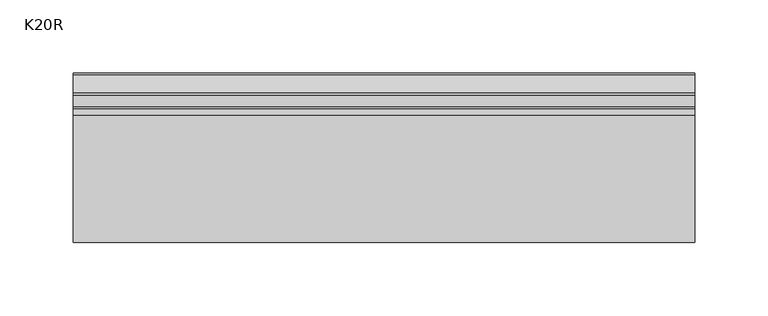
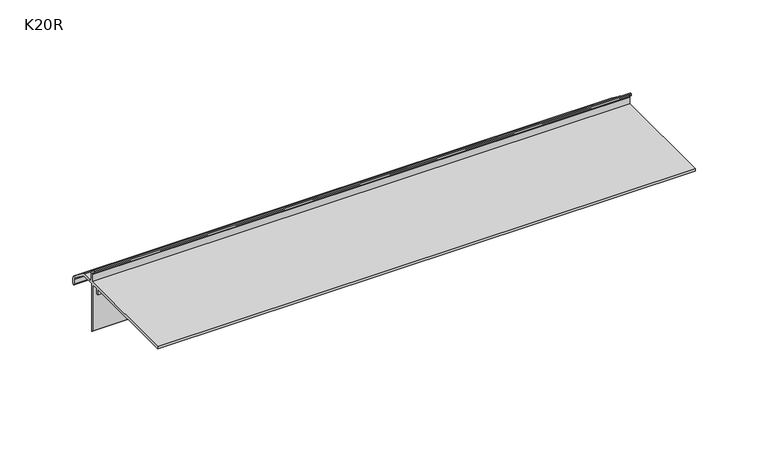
"""IFC4 building model written with IfcOpenShell, lengths in millimetres: proxy geometry, K20R Profil okapowy prosty z rynną : K20R."""

from ifc_helpers import new_model, si_unit, frame, origin, place, context, project, spatial, polyline, circle_curve, source, transform, mapped, element, save
from ifc_brep_helpers import plane_surface, cylinder_surface, revolved_surface, advanced_brep


def k20r_9e352cdf(model_context):
    return source(origin(), model_context, "Body", "AdvancedBrep", [
        advanced_brep(
        [(0.0, 4.0000007, -8.2869169), (0.0, 5.930201, -10.2872957), (0.0, 13.7033457, -10.5587402), (0.0, 15.4054451, -11.1610531), (0.0, 27.605445, -20.3544126), (0.0, 28.8, -22.750319), (0.0, 28.8, -27.0198916), (0.0, 27.1, -27.0198916), (0.0, 27.1, -23.0993261), (0.0, 26.3036301, -21.5020551), (0.0, 14.4327214, -12.5566836), (0.0, 13.5823481, -12.2555508), (0.0, 3.9703269, -11.9198912), (0.0, 2.8999983, -11.9198912), (0.0, 2.8999983, -51.9948908), (0.0, 1.3999986, -50.494891), (0.0, 1.3999986, -11.9198912), (0.0, -3.6000013, -11.9198912), (0.0, -3.6000013, -16.6198916), (0.0, -4.7999993, -16.6198916), (0.0, -4.7999993, -11.9198912), (0.0, -87.2999988, -11.9198912), (0.0, -87.2999988, -9.6198913), (0.0, 2.3999996, -9.6198913), (0.0, 2.3999996, -4.1001397), (0.0, 0.0, -1.6007811), (0.0, 0.0, 0.0), (0.0, 4.0, -4.0987803), (425.0, 4.0000007, -8.2869169), (425.0, 4.0000007, -4.0987801), (425.0, 0.0, 0.0), (425.0, 0.0, -1.6007811), (425.0, 2.3999996, -4.1001397), (425.0, 2.3999996, -9.6198913), (425.0, -87.2999988, -9.6198913), (425.0, -87.2999988, -11.9198912), (425.0, -4.7999993, -11.9198912), (425.0, -4.7999993, -16.6198916), (425.0, -3.6000013, -16.6198916), (425.0, -3.6000013, -11.9198912), (425.0, 1.3999986, -11.9198912), (425.0, 1.3999986, -50.494891), (425.0, 2.8999983, -51.9948908), (425.0, 2.8999983, -11.9198912), (425.0, 3.9703269, -11.9198912), (425.0, 13.5823481, -12.255551), (425.0, 14.4327213, -12.5566837), (425.0, 26.3036302, -21.502055), (425.0, 27.1, -23.0993261), (425.0, 27.1, -27.0198916), (425.0, 28.8, -27.0198916), (425.0, 28.8, -22.750319), (425.0, 27.6054451, -20.3544125), (425.0, 15.4054451, -11.1610531), (425.0, 13.7033457, -10.5587402), (425.0, 5.930201, -10.2872957)],
        [
            (0, 1, circle_curve(frame((0.0, 6.0, -8.288514), z_axis=(1.0, 0.0, 0.0), x_axis=(0.0, -1.0, 0.0)), 2.0)),
            (1, 2),
            (2, 3, circle_curve(frame((0.0, 13.6, -13.5569596), z_axis=(-1.0, 0.0, 0.0), x_axis=(0.0, -1.0, 0.0)), 3.0)),
            (3, 4),
            (4, 5, circle_curve(frame((0.0, 25.8, -22.750319), z_axis=(-1.0, 0.0, 0.0), x_axis=(0.0, -1.0, 0.0)), 3.0)),
            (5, 6),
            (6, 7, circle_curve(frame((0.0, 27.95, -27.0198916), z_axis=(-1.0, 0.0, 0.0), x_axis=(0.0, -1.0, 0.0)), 0.85)),
            (7, 8),
            (8, 9, circle_curve(frame((0.0, 25.1, -23.0993261), z_axis=(1.0, 0.0, 0.0), x_axis=(0.0, -1.0, 0.0)), 2.0)),
            (9, 10),
            (10, 11, circle_curve(frame((0.0, 13.5299988, -13.754637), z_axis=(1.0, 0.0, 0.0), x_axis=(0.0, -1.0, 0.0)), 1.5)),
            (11, 12),
            (12, 13),
            (13, 14),
            (14, 15),
            (15, 16),
            (16, 17),
            (17, 18),
            (18, 19),
            (19, 20),
            (20, 21),
            (21, 22),
            (22, 23),
            (23, 24),
            (24, 25, circle_curve(frame((0.0, -0.1, -4.0987803), z_axis=(1.0, 0.0, 0.0), x_axis=(0.0, -1.0, 0.0)), 2.5)),
            (25, 26),
            (26, 27, circle_curve(frame((0.0, -0.1, -4.0987803), z_axis=(-1.0, 0.0, 0.0), x_axis=(0.0, -1.0, 0.0)), 4.1)),
            (27, 0),
            (28, 29),
            (29, 30, circle_curve(frame((425.0, -0.1, -4.0987803), z_axis=(1.0, 0.0, 0.0), x_axis=(0.0, -1.0, 0.0)), 4.1)),
            (30, 31),
            (31, 32, circle_curve(frame((425.0, -0.1, -4.0987803), z_axis=(-1.0, 0.0, 0.0), x_axis=(0.0, -1.0, 0.0)), 2.5)),
            (32, 33),
            (33, 34),
            (34, 35),
            (35, 36),
            (36, 37),
            (37, 38),
            (38, 39),
            (39, 40),
            (40, 41),
            (41, 42),
            (42, 43),
            (43, 44),
            (44, 45),
            (45, 46, circle_curve(frame((425.0, 13.5299988, -13.754637), z_axis=(-1.0, 0.0, 0.0), x_axis=(0.0, -1.0, 0.0)), 1.5)),
            (46, 47),
            (47, 48, circle_curve(frame((425.0, 25.1, -23.0993261), z_axis=(-1.0, 0.0, 0.0), x_axis=(0.0, -1.0, 0.0)), 2.0)),
            (48, 49),
            (49, 50, circle_curve(frame((425.0, 27.95, -27.0198916), z_axis=(1.0, 0.0, 0.0), x_axis=(0.0, -1.0, 0.0)), 0.85)),
            (50, 51),
            (51, 52, circle_curve(frame((425.0, 25.8, -22.750319), z_axis=(1.0, 0.0, 0.0), x_axis=(0.0, -1.0, 0.0)), 3.0)),
            (52, 53),
            (53, 54, circle_curve(frame((425.0, 13.6, -13.5569596), z_axis=(1.0, 0.0, 0.0), x_axis=(0.0, -1.0, 0.0)), 3.0)),
            (54, 55),
            (55, 28, circle_curve(frame((425.0, 6.0, -8.288514), z_axis=(-1.0, 0.0, 0.0), x_axis=(0.0, -1.0, 0.0)), 2.0)),
            (27, 29),
            (28, 0),
            (26, 30),
            (25, 31),
            (24, 32),
            (23, 33),
            (22, 34),
            (21, 35),
            (20, 36),
            (19, 37),
            (18, 38),
            (17, 39),
            (16, 40),
            (15, 41),
            (14, 42),
            (13, 43),
            (12, 44),
            (11, 45),
            (10, 46),
            (9, 47),
            (8, 48),
            (7, 49),
            (6, 50),
            (5, 51),
            (4, 52),
            (3, 53),
            (2, 54),
            (1, 55),
        ],
        [
            plane_surface(frame((0.0, 0.0, 0.0), z_axis=(-1.0, 0.0, 0.0), x_axis=(0.0, 0.0, 1.0))),
            plane_surface(frame((425.0, 0.0, 0.0), z_axis=(1.0, 0.0, 0.0), x_axis=(0.0, 0.0, 1.0))),
            plane_surface(frame((0.0, 4.0000007, -8.2869169), z_axis=(0.0, 1.0, 0.0), x_axis=(1.0, 0.0, 0.0))),
            cylinder_surface(frame((0.0, -0.1, -4.0987803), z_axis=(-1.0, 0.0, 0.0), x_axis=(0.0, -1.0, 0.0)), 4.1),
            plane_surface(frame((0.0, 0.0, 0.0), z_axis=(0.0, -1.0, 0.0), x_axis=(1.0, 0.0, 0.0))),
            revolved_surface(polyline([(425.0, -2.6, -4.0987803), (0.0, -2.6, -4.0987803)]), (0.0, -0.1, -4.0987803), (1.0, 0.0, 0.0)),
            plane_surface(frame((0.0, 2.3999996, -4.1001397), z_axis=(0.0, -1.0, 0.0), x_axis=(1.0, 0.0, 0.0))),
            plane_surface(frame((0.0, 2.3999996, -9.6198913), z_axis=(0.0, 0.0, 1.0), x_axis=(1.0, 0.0, 0.0))),
            plane_surface(frame((0.0, -87.2999988, -9.6198913), z_axis=(0.0, -1.0, 0.0), x_axis=(1.0, 0.0, 0.0))),
            plane_surface(frame((0.0, -87.2999988, -11.9198912), z_axis=(0.0, 0.0, -1.0), x_axis=(1.0, 0.0, 0.0))),
            plane_surface(frame((0.0, -4.7999993, -11.9198912), z_axis=(0.0, -1.0, 0.0), x_axis=(1.0, 0.0, 0.0))),
            plane_surface(frame((0.0, -4.7999993, -16.6198916), z_axis=(0.0, 0.0, -1.0), x_axis=(1.0, 0.0, 0.0))),
            plane_surface(frame((0.0, -3.6000013, -16.6198916), z_axis=(0.0, 1.0, 0.0), x_axis=(1.0, 0.0, 0.0))),
            plane_surface(frame((0.0, -3.6000013, -11.9198912), z_axis=(0.0, 0.0, -1.0), x_axis=(1.0, 0.0, 0.0))),
            plane_surface(frame((0.0, 1.3999986, -11.9198912), z_axis=(0.0, -1.0, 0.0), x_axis=(1.0, 0.0, 0.0))),
            plane_surface(frame((0.0, 1.3999986, -50.494891), z_axis=(0.0, -0.7071067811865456, -0.7071067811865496), x_axis=(1.0, 0.0, 0.0))),
            plane_surface(frame((0.0, 2.8999983, -51.9948908), z_axis=(0.0, 1.0, 0.0), x_axis=(1.0, 0.0, 0.0))),
            plane_surface(frame((0.0, 2.8999983, -11.9198912), z_axis=(0.0, 0.0, -1.0), x_axis=(1.0, 0.0, 0.0))),
            plane_surface(frame((0.0, 3.9703269, -11.9198912), z_axis=(0.0, -0.034899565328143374, -0.9993908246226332), x_axis=(1.0, 0.0, 0.0))),
            revolved_surface(polyline([(425.0, 12.0299988, -13.754637), (0.0, 12.0299988, -13.754637)]), (0.0, 13.5299988, -13.754637), (1.0, 0.0, 0.0)),
            plane_surface(frame((0.0, 14.4327214, -12.5566836), z_axis=(0.0, -0.6018150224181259, -0.7986355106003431), x_axis=(1.0, 0.0, 0.0))),
            revolved_surface(polyline([(425.0, 23.1, -23.0993261), (0.0, 23.1, -23.0993261)]), (0.0, 25.1, -23.0993261), (1.0, 0.0, 0.0)),
            plane_surface(frame((0.0, 27.1, -23.0993261), z_axis=(0.0, -1.0, 0.0), x_axis=(1.0, 0.0, 0.0))),
            cylinder_surface(frame((0.0, 27.95, -27.0198916), z_axis=(-1.0, 0.0, 0.0), x_axis=(0.0, -1.0, 0.0)), 0.85),
            plane_surface(frame((0.0, 28.8, -27.0198916), z_axis=(0.0, 1.0, 0.0), x_axis=(1.0, 0.0, 0.0))),
            cylinder_surface(frame((0.0, 25.8, -22.750319), z_axis=(-1.0, 0.0, 0.0), x_axis=(0.0, -1.0, 0.0)), 3.0),
            plane_surface(frame((0.0, 27.605445, -20.3544126), z_axis=(0.0, 0.6018150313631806, 0.7986355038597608), x_axis=(1.0, 0.0, 0.0))),
            cylinder_surface(frame((0.0, 13.6, -13.5569596), z_axis=(-1.0, 0.0, 0.0), x_axis=(0.0, -1.0, 0.0)), 3.0),
            plane_surface(frame((0.0, 13.7033457, -10.5587402), z_axis=(0.0, 0.03489952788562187, 0.9993908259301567), x_axis=(1.0, 0.0, 0.0))),
            revolved_surface(polyline([(425.0, 4.0, -8.288514), (0.0, 4.0, -8.288514)]), (0.0, 6.0, -8.288514), (1.0, 0.0, 0.0)),
        ],
        [
            (0, [[1, 2, 3, 4, 5, 6, 7, 8, 9, 10, 11, 12, 13, 14, 15, 16, 17, 18, 19, 20, 21, 22, 23, 24, 25, 26, 27, 28]]),
            (1, [[29, 30, 31, 32, 33, 34, 35, 36, 37, 38, 39, 40, 41, 42, 43, 44, 45, 46, 47, 48, 49, 50, 51, 52, 53, 54, 55, 56]]),
            (2, [[57, -29, 58, -28]]),
            (3, [[59, -30, -57, -27]]),
            (4, [[60, -31, -59, -26]]),
            (5, [[61, -32, -60, -25]]),
            (6, [[62, -33, -61, -24]]),
            (7, [[63, -34, -62, -23]]),
            (8, [[64, -35, -63, -22]]),
            (9, [[65, -36, -64, -21]]),
            (10, [[66, -37, -65, -20]]),
            (11, [[67, -38, -66, -19]]),
            (12, [[68, -39, -67, -18]]),
            (13, [[69, -40, -68, -17]]),
            (14, [[70, -41, -69, -16]]),
            (15, [[71, -42, -70, -15]]),
            (16, [[72, -43, -71, -14]]),
            (17, [[73, -44, -72, -13]]),
            (18, [[74, -45, -73, -12]]),
            (19, [[75, -46, -74, -11]]),
            (20, [[76, -47, -75, -10]]),
            (21, [[77, -48, -76, -9]]),
            (22, [[78, -49, -77, -8]]),
            (23, [[79, -50, -78, -7]]),
            (24, [[80, -51, -79, -6]]),
            (25, [[81, -52, -80, -5]]),
            (26, [[82, -53, -81, -4]]),
            (27, [[83, -54, -82, -3]]),
            (28, [[84, -55, -83, -2]]),
            (29, [[-58, -56, -84, -1]]),
        ],
    ),
    ])


if __name__ == "__main__":
    model = new_model("IFC4")
    model_context = context("Model", 3, world=origin())
    ifc_project = project(units=[si_unit("LENGTHUNIT", "METRE", prefix="MILLI")], contexts=[model_context])
    site = spatial("IfcSite", under=ifc_project)
    building = spatial("IfcBuilding", under=site)
    placement = place(None, origin())
    k20r_shape = k20r_9e352cdf(model_context)
    element("IfcBuildingElementProxy", 1, Name="K20R Profil okapowy prosty z rynną : K20R", ObjectType="K20R Profil okapowy prosty z rynną : K20R", at=placement, inside=building, context=model_context, shape_type="MappedRepresentation", body=[
        mapped(k20r_shape, transform((0.0, 0.0, 0.0), x_axis=(1.0, 0.0, 0.0), y_axis=(0.0, 1.0, 0.0), z_axis=(0.0, 0.0, 1.0))),
    ])
    save(model, "model.ifc")
